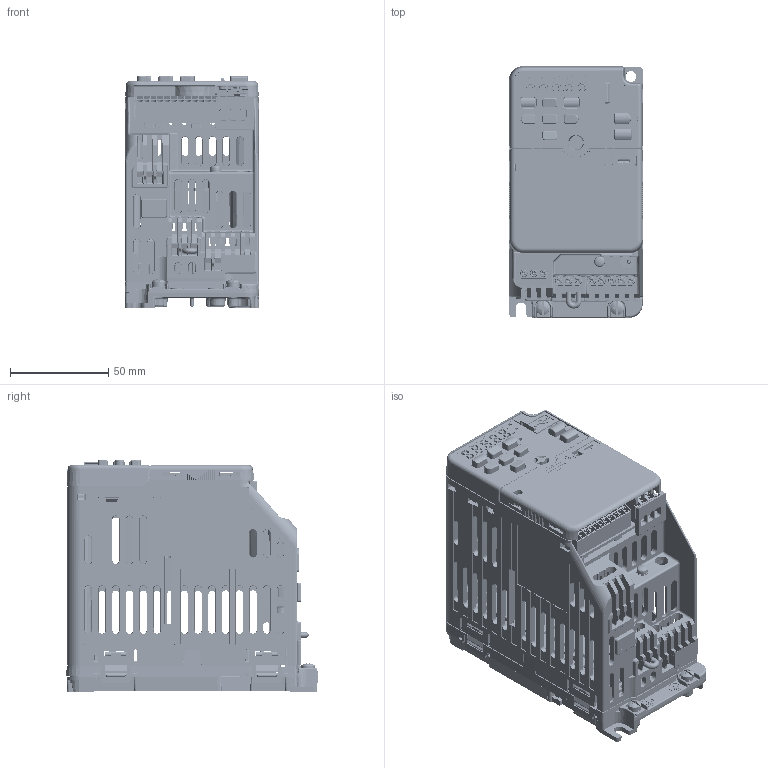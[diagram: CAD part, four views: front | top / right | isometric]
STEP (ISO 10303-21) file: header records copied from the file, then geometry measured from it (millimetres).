
FILE_DESCRIPTION((''),'2;1');
FILE_NAME('GA500_EMC_FRAME_V1-A_ASM','2019-03-08T',('jam'),('YASKAWA ELECTRIC CORCORATION'),'PRO/ENGINEER BY PARAMETRIC TECHNOLOGY CORPORATION, 2015440','PRO/ENGINEER BY PARAMETRIC TECHNOLOGY CORPORATION, 2015440','');
FILE_SCHEMA(('CONFIG_CONTROL_DESIGN'));
Products named in the file (54): LAY_KIPR-GA50_Q_2002_1_1_1; 400-104-190_1_1_1; SCAT41159-101_1_1_1; 400-098-617_1_1_1; 400-098-640-01F-5_6PCB_1_1_1; MKDSN2P5_5_1_1_1; ETP760431_6PCB_ASM_1_ASM_1_ASM__ASM; 400-098-640-01F-5_5PCB_AF1_1_1_; SPTA1_3-5P0_1_1_1; MKDSN2P5_3_1_1_1; ETP761861_5PCB_ASM_1_ASM_1_ASM__ASM; 400-098-626_ASM_1_ASM_1_ASM_1; 400-098-641-02D-4_1_1_1; ETX731410_ASM_1_ASM_1_ASM_1_ASM; GA500_V1_EMC_200V_ASM_1_ASM_1_A_ASM; 400-098-621_1_1_1; HSR-M3-5P3_1_1_1; 400-098-621_ASM_1_ASM_1_ASM_1_ASM; 400-104-023-01F-5_1_1_1; 95003-2884_1_1_1; B12B-PASK-1_1_1_1; 1734753-1_AF1_1_1_1; DHB-PD20-S131N-4P9_AF1_1_1_1; KARI_SPTA1_9-3P5_AF0_1_1_1; KARI_SPTA1_8-3P5_AF0_1_1_1; SPTA1_11-3P5_AF0_1_1_1; SPTA1_3-5P0_AF0_1_1_1; KTC750050-SXXXX_ASM_1_ASM_1_ASM_ASM; F354371_1_1_1; F354373_1_1_1; F354374_1_1_1; F354372_1_1_1; V-GEM_PWB2_1_1_1; 55265-0811_AF0_1_1_1; SM10B-SURS-TF_1_1_1_1; V-GIM_PWB_ASM2_ASM_1_ASM_1_ASM__ASM; GA500_KEYPAD_20180227_ASM_1_ASM_ASM; 400-104-186_1_1_1; 400-104-251_1_1_1; 400-115-297-001_1_1_1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
Assembly tree (55 placements, depth 7):
  GA500_EMC_FRAME_V1-A_ASM
    GA500_EMC_FRAME_V1-A_ASM_1_ASM
      GA500_EMC_FRAME_V1-A_ASM_1_ASM__ASM
        KIPR-GA50_Q_2002_ASM_2_ASM_1_AS_ASM
          LAY_KIPR-GA50_Q_2002_1_1_1
          400-104-190_1_1_1
          SCAT41159-101_1_1_1  x2
          400-098-617_1_1_1
          ETP760431_6PCB_ASM_1_ASM_1_ASM__ASM
            400-098-640-01F-5_6PCB_1_1_1
            MKDSN2P5_5_1_1_1
          ETP761861_5PCB_ASM_1_ASM_1_ASM__ASM
            400-098-640-01F-5_5PCB_AF1_1_1_
            SPTA1_3-5P0_1_1_1
            MKDSN2P5_3_1_1_1
          400-098-626_ASM_1_ASM_1_ASM_1
          GA500_V1_EMC_200V_ASM_1_ASM_1_A_ASM
            ETX731410_ASM_1_ASM_1_ASM_1_ASM
              400-098-641-02D-4_1_1_1
              MKDSN2P5_3_1_1_1
          400-098-621_ASM_1_ASM_1_ASM_1_ASM
            400-098-621_1_1_1
            HSR-M3-5P3_1_1_1
          KTC750050-SXXXX_ASM_1_ASM_1_ASM_ASM
            400-104-023-01F-5_1_1_1
            95003-2884_1_1_1
            B12B-PASK-1_1_1_1
            1734753-1_AF1_1_1_1
            DHB-PD20-S131N-4P9_AF1_1_1_1
            KARI_SPTA1_9-3P5_AF0_1_1_1
            KARI_SPTA1_8-3P5_AF0_1_1_1
            SPTA1_11-3P5_AF0_1_1_1
            SPTA1_3-5P0_AF0_1_1_1
          GA500_KEYPAD_20180227_ASM_1_ASM_ASM
            F354371_1_1_1
            F354373_1_1_1
            F354374_1_1_1
            F354372_1_1_1
            V-GIM_PWB_ASM2_ASM_1_ASM_1_ASM__ASM
              V-GEM_PWB2_1_1_1
              55265-0811_AF0_1_1_1
              SM10B-SURS-TF_1_1_1_1
          400-104-186_1_1_1
          400-104-251_1_1_1
          400-115-297-001_1_1_1
          MS15_M3X16_1_1_1
          400-108-079_1_1_1
          400-104-204_1_1_1_1
          400-104-204_2_1_1_1
          400-104-204_3_1_1_1
          400-104-206_1_1_1_1
          400-118-612_1_1_1_1
          400-118-612_2_1_1_1
          400-118-612_3_1_1_1
          400-104-204_5_1_1_1
Bounding box: 68.55 x 128.27 x 118.75 mm (x, y, z)
Volume: 198720.4 mm3; surface area: 216716.4 mm2
Topology: 40 solids, 46 shells, 13609 faces, 37643 edges, 24273 vertices
Faces by surface type: plane 9423, cylinder 2426, cone 813, bspline 467, torus 301, sphere 178, extrusion 1
Entity records: 446124 total; most frequent: CARTESIAN_POINT 111475, ORIENTED_EDGE 72828, DIRECTION 64158, EDGE_CURVE 36429, VECTOR 27124, LINE 27123, VERTEX_POINT 23612, AXIS2_PLACEMENT_3D 18517
